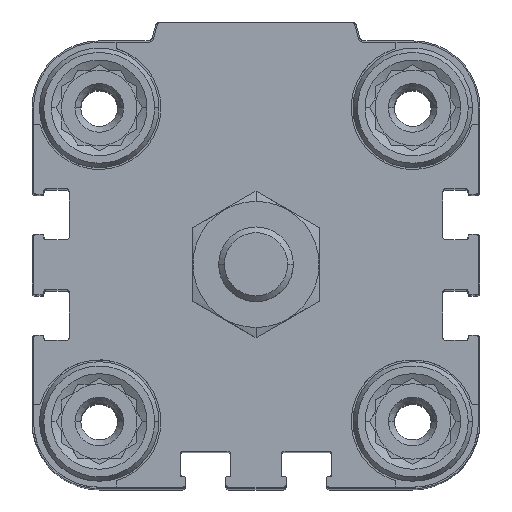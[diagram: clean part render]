
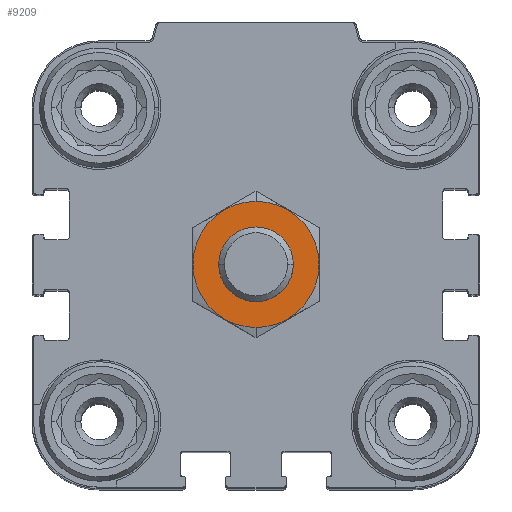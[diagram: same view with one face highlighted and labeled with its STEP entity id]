
A CAD part, top view. The second image highlights one B-rep face of the part: STEP entity #9209.
In plain terms, the highlighted planar face has unit normal (0, 0, 1).
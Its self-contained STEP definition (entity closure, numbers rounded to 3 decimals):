
#667 = CIRCLE ( 'NONE', #12753, 5. ) ;
#701 = VERTEX_POINT ( 'NONE', #18468 ) ;
#1446 = AXIS2_PLACEMENT_3D ( 'NONE', #15543, #6285, #7759 ) ;
#2209 = ORIENTED_EDGE ( 'NONE', *, *, #18555, .F. ) ;
#2237 = ORIENTED_EDGE ( 'NONE', *, *, #4044, .T. ) ;
#2657 = DIRECTION ( 'NONE',  ( 0., 0., -1. ) ) ;
#2791 = CARTESIAN_POINT ( 'NONE',  ( 0., -5., 15.5 ) ) ;
#3677 = EDGE_LOOP ( 'NONE', ( #2209, #20777 ) ) ;
#3888 = AXIS2_PLACEMENT_3D ( 'NONE', #11697, #2657, #13988 ) ;
#4044 = EDGE_CURVE ( 'NONE', #4796, #23981, #23607, .T. ) ;
#4796 = VERTEX_POINT ( 'NONE', #19931 ) ;
#4850 = CARTESIAN_POINT ( 'NONE',  ( 0., -8.45, 15.5 ) ) ;
#5207 = ORIENTED_EDGE ( 'NONE', *, *, #15816, .T. ) ;
#6030 = DIRECTION ( 'NONE',  ( 0., 0., -1. ) ) ;
#6285 = DIRECTION ( 'NONE',  ( 0., 0., -1. ) ) ;
#7010 = CARTESIAN_POINT ( 'NONE',  ( 0., 0., 15.5 ) ) ;
#7759 = DIRECTION ( 'NONE',  ( 0., -1., 0. ) ) ;
#8095 = CARTESIAN_POINT ( 'NONE',  ( 0., 0., 15.5 ) ) ;
#8359 = DIRECTION ( 'NONE',  ( 0., 0., -1. ) ) ;
#9209 = ADVANCED_FACE ( 'NONE', ( #15427, #22608 ), #21265, .F. ) ;
#9807 = AXIS2_PLACEMENT_3D ( 'NONE', #7010, #8359, #23200 ) ;
#10058 = AXIS2_PLACEMENT_3D ( 'NONE', #11552, #19087, #18967 ) ;
#10166 = DIRECTION ( 'NONE',  ( 0., -1., 0. ) ) ;
#11552 = CARTESIAN_POINT ( 'NONE',  ( 0., 0., 15.5 ) ) ;
#11697 = CARTESIAN_POINT ( 'NONE',  ( 0., 0., 15.5 ) ) ;
#12753 = AXIS2_PLACEMENT_3D ( 'NONE', #8095, #6030, #10166 ) ;
#13988 = DIRECTION ( 'NONE',  ( 0., -1., 0. ) ) ;
#14242 = EDGE_CURVE ( 'NONE', #701, #15165, #22995, .T. ) ;
#15165 = VERTEX_POINT ( 'NONE', #4850 ) ;
#15427 = FACE_OUTER_BOUND ( 'NONE', #3677, .T. ) ;
#15543 = CARTESIAN_POINT ( 'NONE',  ( 0., 0., 15.5 ) ) ;
#15816 = EDGE_CURVE ( 'NONE', #23981, #4796, #667, .T. ) ;
#17505 = CIRCLE ( 'NONE', #3888, 8.45 ) ;
#18468 = CARTESIAN_POINT ( 'NONE',  ( 0., 8.45, 15.5 ) ) ;
#18555 = EDGE_CURVE ( 'NONE', #15165, #701, #17505, .T. ) ;
#18967 = DIRECTION ( 'NONE',  ( 0., -1., 0. ) ) ;
#19087 = DIRECTION ( 'NONE',  ( 0., 0., -1. ) ) ;
#19931 = CARTESIAN_POINT ( 'NONE',  ( 0., 5., 15.5 ) ) ;
#19947 = EDGE_LOOP ( 'NONE', ( #2237, #5207 ) ) ;
#20777 = ORIENTED_EDGE ( 'NONE', *, *, #14242, .F. ) ;
#21265 = PLANE ( 'NONE',  #10058 ) ;
#22608 = FACE_BOUND ( 'NONE', #19947, .T. ) ;
#22995 = CIRCLE ( 'NONE', #9807, 8.45 ) ;
#23200 = DIRECTION ( 'NONE',  ( 0., -1., 0. ) ) ;
#23607 = CIRCLE ( 'NONE', #1446, 5. ) ;
#23981 = VERTEX_POINT ( 'NONE', #2791 ) ;
